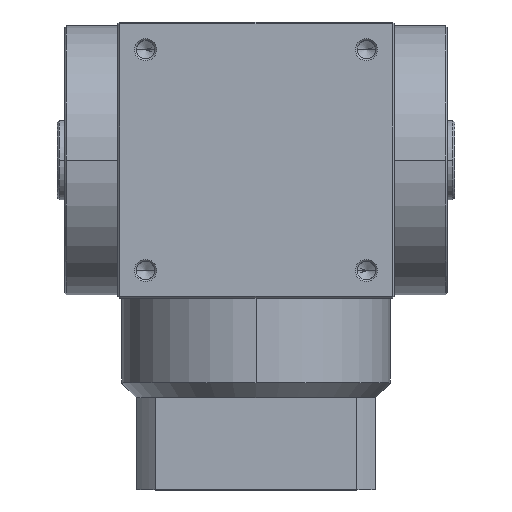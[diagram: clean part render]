
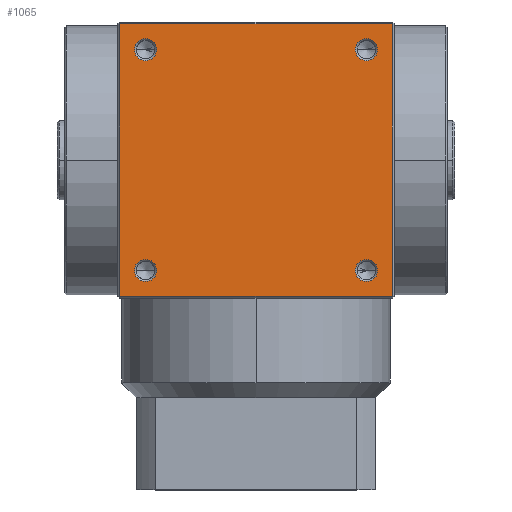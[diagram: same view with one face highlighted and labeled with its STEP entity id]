
A CAD part, top view. The second image highlights one B-rep face of the part: STEP entity #1065.
In plain terms, the highlighted planar face has unit normal (0, 0, 1).
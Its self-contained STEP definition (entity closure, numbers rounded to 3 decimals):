
#17 = DIRECTION ( 'NONE',  ( 1., 0., 0. ) ) ;
#42 = FACE_BOUND ( 'NONE', #1827, .T. ) ;
#88 = CARTESIAN_POINT ( 'NONE',  ( -33., -30., 37.5 ) ) ;
#110 = AXIS2_PLACEMENT_3D ( 'NONE', #6649, #507, #7438 ) ;
#251 = CIRCLE ( 'NONE', #7930, 3. ) ;
#357 = VERTEX_POINT ( 'NONE', #7855 ) ;
#490 = AXIS2_PLACEMENT_3D ( 'NONE', #7110, #3744, #2990 ) ;
#507 = DIRECTION ( 'NONE',  ( 0., 0., 1. ) ) ;
#553 = CIRCLE ( 'NONE', #1452, 3. ) ;
#634 = EDGE_CURVE ( 'NONE', #2602, #5265, #3527, .T. ) ;
#656 = VECTOR ( 'NONE', #1585, 1000. ) ;
#657 = CIRCLE ( 'NONE', #2622, 3. ) ;
#684 = VERTEX_POINT ( 'NONE', #1578 ) ;
#737 = DIRECTION ( 'NONE',  ( 0., 0., 1. ) ) ;
#911 = ORIENTED_EDGE ( 'NONE', *, *, #8073, .F. ) ;
#999 = VERTEX_POINT ( 'NONE', #8778 ) ;
#1065 = ADVANCED_FACE ( 'NONE', ( #4801, #42, #6420, #5441, #8556 ), #6701, .F. ) ;
#1116 = CARTESIAN_POINT ( 'NONE',  ( -30., -30., 37.5 ) ) ;
#1188 = LINE ( 'NONE', #7974, #2065 ) ;
#1195 = CARTESIAN_POINT ( 'NONE',  ( -37., -37., 37.5 ) ) ;
#1321 = AXIS2_PLACEMENT_3D ( 'NONE', #4813, #3462, #6173 ) ;
#1332 = EDGE_LOOP ( 'NONE', ( #1517, #8068 ) ) ;
#1380 = CARTESIAN_POINT ( 'NONE',  ( -30., -30., 37.5 ) ) ;
#1383 = CARTESIAN_POINT ( 'NONE',  ( 30., -30., 37.5 ) ) ;
#1452 = AXIS2_PLACEMENT_3D ( 'NONE', #8273, #6256, #2818 ) ;
#1473 = VERTEX_POINT ( 'NONE', #7214 ) ;
#1497 = CIRCLE ( 'NONE', #8679, 3. ) ;
#1517 = ORIENTED_EDGE ( 'NONE', *, *, #7081, .F. ) ;
#1577 = VERTEX_POINT ( 'NONE', #3314 ) ;
#1578 = CARTESIAN_POINT ( 'NONE',  ( -27., -30., 37.5 ) ) ;
#1585 = DIRECTION ( 'NONE',  ( -1., 0., 0. ) ) ;
#1613 = EDGE_CURVE ( 'NONE', #2725, #999, #3745, .T. ) ;
#1827 = EDGE_LOOP ( 'NONE', ( #3431, #8279 ) ) ;
#1854 = DIRECTION ( 'NONE',  ( 0., -1., 0. ) ) ;
#1900 = CIRCLE ( 'NONE', #490, 3. ) ;
#2053 = DIRECTION ( 'NONE',  ( 0., 1., 0. ) ) ;
#2065 = VECTOR ( 'NONE', #7274, 1000. ) ;
#2114 = VECTOR ( 'NONE', #1854, 1000. ) ;
#2122 = EDGE_CURVE ( 'NONE', #8914, #1577, #251, .T. ) ;
#2602 = VERTEX_POINT ( 'NONE', #1195 ) ;
#2622 = AXIS2_PLACEMENT_3D ( 'NONE', #1383, #8251, #17 ) ;
#2644 = CIRCLE ( 'NONE', #5476, 3. ) ;
#2725 = VERTEX_POINT ( 'NONE', #7610 ) ;
#2738 = CARTESIAN_POINT ( 'NONE',  ( -37., 37., 37.5 ) ) ;
#2818 = DIRECTION ( 'NONE',  ( 1., 0., 0. ) ) ;
#2926 = EDGE_CURVE ( 'NONE', #357, #1473, #8655, .T. ) ;
#2936 = ORIENTED_EDGE ( 'NONE', *, *, #634, .F. ) ;
#2990 = DIRECTION ( 'NONE',  ( 1., 0., 0. ) ) ;
#3124 = VERTEX_POINT ( 'NONE', #88 ) ;
#3212 = DIRECTION ( 'NONE',  ( 1., 0., 0. ) ) ;
#3314 = CARTESIAN_POINT ( 'NONE',  ( 27., 30., 37.5 ) ) ;
#3377 = VERTEX_POINT ( 'NONE', #4666 ) ;
#3431 = ORIENTED_EDGE ( 'NONE', *, *, #7373, .F. ) ;
#3462 = DIRECTION ( 'NONE',  ( 0., 0., 1. ) ) ;
#3527 = LINE ( 'NONE', #8235, #5671 ) ;
#3680 = ORIENTED_EDGE ( 'NONE', *, *, #2122, .F. ) ;
#3744 = DIRECTION ( 'NONE',  ( 0., 0., 1. ) ) ;
#3745 = LINE ( 'NONE', #3977, #2114 ) ;
#3822 = LINE ( 'NONE', #6432, #656 ) ;
#3882 = EDGE_LOOP ( 'NONE', ( #3680, #911 ) ) ;
#3977 = CARTESIAN_POINT ( 'NONE',  ( 37., 0., 37.5 ) ) ;
#4013 = EDGE_LOOP ( 'NONE', ( #6164, #7970, #4130, #2936 ) ) ;
#4111 = ORIENTED_EDGE ( 'NONE', *, *, #4594, .F. ) ;
#4130 = ORIENTED_EDGE ( 'NONE', *, *, #5458, .T. ) ;
#4289 = CARTESIAN_POINT ( 'NONE',  ( 33., 30., 37.5 ) ) ;
#4594 = EDGE_CURVE ( 'NONE', #3124, #684, #1497, .T. ) ;
#4666 = CARTESIAN_POINT ( 'NONE',  ( 27., -30., 37.5 ) ) ;
#4801 = FACE_OUTER_BOUND ( 'NONE', #4013, .T. ) ;
#4813 = CARTESIAN_POINT ( 'NONE',  ( -30., 30., 37.5 ) ) ;
#4816 = DIRECTION ( 'NONE',  ( -1., 0., 0. ) ) ;
#5208 = EDGE_CURVE ( 'NONE', #3377, #7430, #657, .T. ) ;
#5265 = VERTEX_POINT ( 'NONE', #2738 ) ;
#5335 = DIRECTION ( 'NONE',  ( 0., 0., 1. ) ) ;
#5441 = FACE_BOUND ( 'NONE', #8843, .T. ) ;
#5458 = EDGE_CURVE ( 'NONE', #2725, #5265, #1188, .T. ) ;
#5476 = AXIS2_PLACEMENT_3D ( 'NONE', #1380, #737, #8305 ) ;
#5671 = VECTOR ( 'NONE', #2053, 1000. ) ;
#6062 = DIRECTION ( 'NONE',  ( 1., 0., 0. ) ) ;
#6164 = ORIENTED_EDGE ( 'NONE', *, *, #8114, .F. ) ;
#6173 = DIRECTION ( 'NONE',  ( 1., 0., 0. ) ) ;
#6256 = DIRECTION ( 'NONE',  ( 0., 0., 1. ) ) ;
#6420 = FACE_BOUND ( 'NONE', #3882, .T. ) ;
#6432 = CARTESIAN_POINT ( 'NONE',  ( 0., -37., 37.5 ) ) ;
#6649 = CARTESIAN_POINT ( 'NONE',  ( -30., 30., 37.5 ) ) ;
#6695 = AXIS2_PLACEMENT_3D ( 'NONE', #8047, #7547, #4816 ) ;
#6701 = PLANE ( 'NONE',  #6695 ) ;
#6864 = CARTESIAN_POINT ( 'NONE',  ( 30., 30., 37.5 ) ) ;
#7081 = EDGE_CURVE ( 'NONE', #7430, #3377, #1900, .T. ) ;
#7110 = CARTESIAN_POINT ( 'NONE',  ( 30., -30., 37.5 ) ) ;
#7214 = CARTESIAN_POINT ( 'NONE',  ( -27., 30., 37.5 ) ) ;
#7274 = DIRECTION ( 'NONE',  ( -1., 0., 0. ) ) ;
#7373 = EDGE_CURVE ( 'NONE', #1473, #357, #8442, .T. ) ;
#7430 = VERTEX_POINT ( 'NONE', #7515 ) ;
#7433 = EDGE_CURVE ( 'NONE', #684, #3124, #2644, .T. ) ;
#7438 = DIRECTION ( 'NONE',  ( 1., 0., 0. ) ) ;
#7515 = CARTESIAN_POINT ( 'NONE',  ( 33., -30., 37.5 ) ) ;
#7547 = DIRECTION ( 'NONE',  ( 0., 0., -1. ) ) ;
#7610 = CARTESIAN_POINT ( 'NONE',  ( 37., 37., 37.5 ) ) ;
#7855 = CARTESIAN_POINT ( 'NONE',  ( -33., 30., 37.5 ) ) ;
#7930 = AXIS2_PLACEMENT_3D ( 'NONE', #6864, #8918, #6062 ) ;
#7970 = ORIENTED_EDGE ( 'NONE', *, *, #1613, .F. ) ;
#7974 = CARTESIAN_POINT ( 'NONE',  ( 0., 37., 37.5 ) ) ;
#8047 = CARTESIAN_POINT ( 'NONE',  ( 0., 0., 37.5 ) ) ;
#8068 = ORIENTED_EDGE ( 'NONE', *, *, #5208, .F. ) ;
#8073 = EDGE_CURVE ( 'NONE', #1577, #8914, #553, .T. ) ;
#8114 = EDGE_CURVE ( 'NONE', #999, #2602, #3822, .T. ) ;
#8235 = CARTESIAN_POINT ( 'NONE',  ( -37., 0., 37.5 ) ) ;
#8251 = DIRECTION ( 'NONE',  ( 0., 0., 1. ) ) ;
#8273 = CARTESIAN_POINT ( 'NONE',  ( 30., 30., 37.5 ) ) ;
#8279 = ORIENTED_EDGE ( 'NONE', *, *, #2926, .F. ) ;
#8305 = DIRECTION ( 'NONE',  ( 1., 0., 0. ) ) ;
#8370 = ORIENTED_EDGE ( 'NONE', *, *, #7433, .F. ) ;
#8442 = CIRCLE ( 'NONE', #1321, 3. ) ;
#8556 = FACE_BOUND ( 'NONE', #1332, .T. ) ;
#8655 = CIRCLE ( 'NONE', #110, 3. ) ;
#8679 = AXIS2_PLACEMENT_3D ( 'NONE', #1116, #5335, #3212 ) ;
#8778 = CARTESIAN_POINT ( 'NONE',  ( 37., -37., 37.5 ) ) ;
#8843 = EDGE_LOOP ( 'NONE', ( #8370, #4111 ) ) ;
#8914 = VERTEX_POINT ( 'NONE', #4289 ) ;
#8918 = DIRECTION ( 'NONE',  ( 0., 0., 1. ) ) ;
